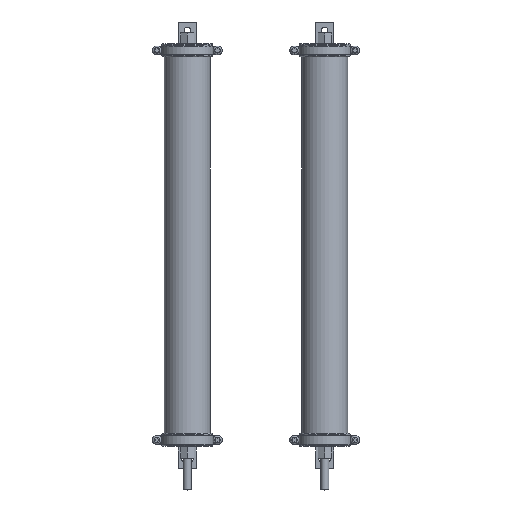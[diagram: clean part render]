
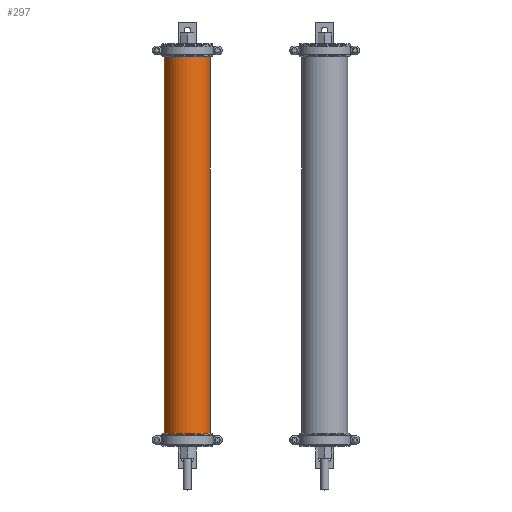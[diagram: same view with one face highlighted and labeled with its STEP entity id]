
A CAD part, top view. The second image highlights one B-rep face of the part: STEP entity #297.
In plain terms, the highlighted cylindrical face has radius 25 mm (diameter 50 mm), a full revolution.
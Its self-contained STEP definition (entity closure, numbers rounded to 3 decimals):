
#297 = ADVANCED_FACE( '', ( #715, #716 ), #717, .T. );
#715 = FACE_OUTER_BOUND( '', #1193, .T. );
#716 = FACE_OUTER_BOUND( '', #1194, .T. );
#717 = CYLINDRICAL_SURFACE( '', #1195, 25. );
#1193 = EDGE_LOOP( '', ( #2465 ) );
#1194 = EDGE_LOOP( '', ( #2466 ) );
#1195 = AXIS2_PLACEMENT_3D( '', #2467, #2468, #2469 );
#2465 = ORIENTED_EDGE( '', *, *, #3130, .F. );
#2466 = ORIENTED_EDGE( '', *, *, #3131, .T. );
#2467 = CARTESIAN_POINT( '', ( 0., 0., 0. ) );
#2468 = DIRECTION( '', ( 0., 1., 0. ) );
#2469 = DIRECTION( '', ( 0., 0., -1. ) );
#3130 = EDGE_CURVE( '', #3835, #3835, #3836, .T. );
#3131 = EDGE_CURVE( '', #3837, #3837, #3838, .T. );
#3835 = VERTEX_POINT( '', #4801 );
#3836 = CIRCLE( '', #4802, 25. );
#3837 = VERTEX_POINT( '', #4803 );
#3838 = CIRCLE( '', #4804, 25. );
#4801 = CARTESIAN_POINT( '', ( 0., 14., -25. ) );
#4802 = AXIS2_PLACEMENT_3D( '', #5636, #5637, #5638 );
#4803 = CARTESIAN_POINT( '', ( 0., 425., -25. ) );
#4804 = AXIS2_PLACEMENT_3D( '', #5639, #5640, #5641 );
#5636 = CARTESIAN_POINT( '', ( 0., 14., 0. ) );
#5637 = DIRECTION( '', ( 0., -1., 0. ) );
#5638 = DIRECTION( '', ( 0., 0., -1. ) );
#5639 = CARTESIAN_POINT( '', ( 0., 425., 0. ) );
#5640 = DIRECTION( '', ( 0., -1., 0. ) );
#5641 = DIRECTION( '', ( 0., 0., -1. ) );
